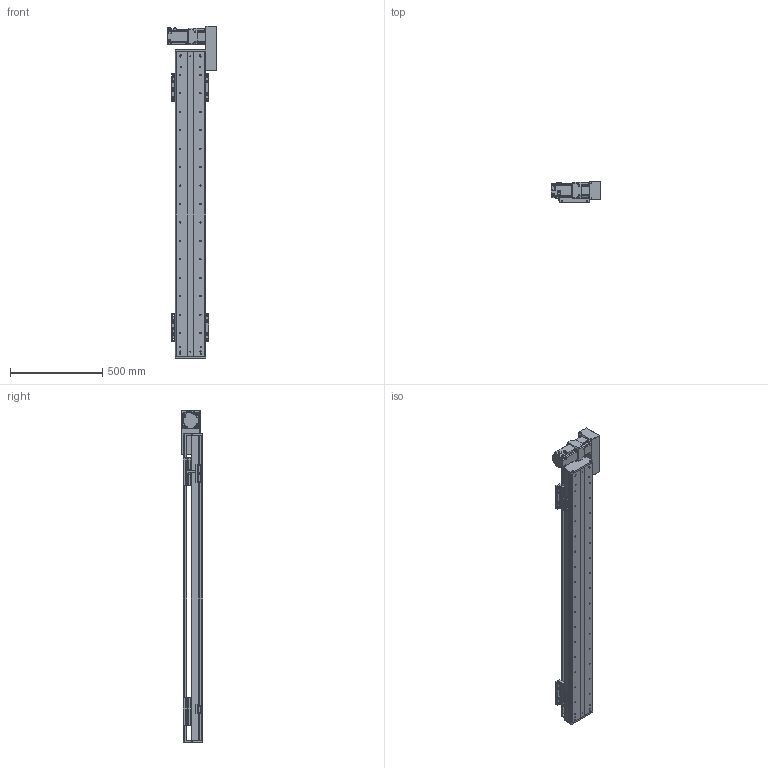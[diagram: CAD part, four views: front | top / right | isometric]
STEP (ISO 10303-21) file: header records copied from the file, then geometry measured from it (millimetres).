
FILE_DESCRIPTION(/* description */ (''),/* implementation_level */ '2;1');
FILE_NAME(/* name */ 'C:\Users\PC\Desktop\3D도면\STEP\DSB165-R7G-W1300-L.stp',/* time_stamp */ '2018-06-25T14:40:07+09:00',/* author */ ('PC'),/* organization */ (''),/* preprocessor_version */ 'ST-DEVELOPER v16.5',/* originating_system */ 'Autodesk Inventor 2017',/* authorisation */ '');
FILE_SCHEMA (('AUTOMOTIVE_DESIGN { 1 0 10303 214 3 1 1 }'));
Length unit declared in the file: millimetre
Products named in the file (12): DSB165-L7G-W1300-R_MIR; DSB165-BASE-L_MIR; hg-kr73__MIR; ab0901-p0401300102_MIR; 11-DSB165 BELT COVER_MIR; 12-DSB165-REAR COVER_MIR; 14-DSB165-FRONT COVER_MIR; DSB165-UP COVER_MIR; DSB165-TABLE(MSB20S)_MIR; DSR165-SENSOR DOG_MIR; pm-y65_step_MIR; SENSOR BRACKET(EE-SX674A)_MIR
Assembly tree (16 placements, depth 2):
  DSB165-L7G-W1300-R_MIR
    DSB165-BASE-L_MIR
    hg-kr73__MIR
    ab0901-p0401300102_MIR
    11-DSB165 BELT COVER_MIR
    12-DSB165-REAR COVER_MIR
    14-DSB165-FRONT COVER_MIR
    DSB165-UP COVER_MIR
    DSB165-TABLE(MSB20S)_MIR  x2
    DSR165-SENSOR DOG_MIR
    pm-y65_step_MIR  x3
    SENSOR BRACKET(EE-SX674A)_MIR  x3
Bounding box: 270 x 115 x 1800 mm (x, y, z)
Volume: 10238339.2 mm3; surface area: 2378753 mm2
Topology: 17 solids, 17 shells, 1681 faces, 4514 edges, 2972 vertices
Faces by surface type: plane 921, cylinder 626, cone 122, sphere 8, torus 4
Full cylindrical faces by diameter (mm): 2.459 x20, 3.5 x6, 4.134 x42, 4.5 x18, 5 x27, 5.5 x36, 5.9 x4, 6 x4, 6.6 x14, 6.647 x50, 6.8 x1, 7 x4, 7.6 x4, 8.4 x1, 8.5 x24, 8.7 x1, 9.5 x32, 11 x6, 14 x16, 19 x1, 22 x1, 24 x1, 25 x1, 28 x1, 67 x1, 70 x2, 80 x1
Entity records: 36424 total; most frequent: DIRECTION 6314, CARTESIAN_POINT 6111, ORIENTED_EDGE 5562, EDGE_CURVE 2781, AXIS2_PLACEMENT_3D 2327, VERTEX_POINT 1986, EDGE_LOOP 1759, LINE 1660
